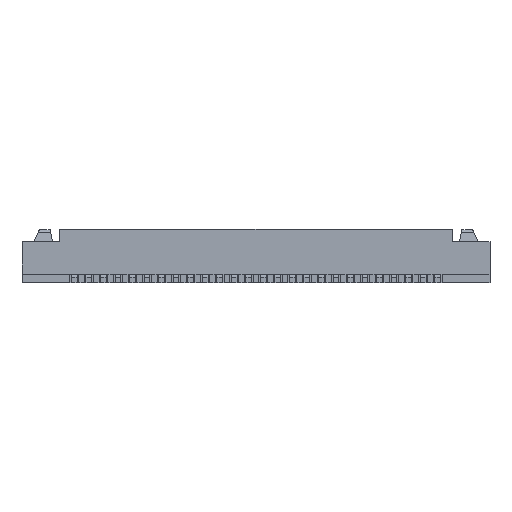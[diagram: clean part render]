
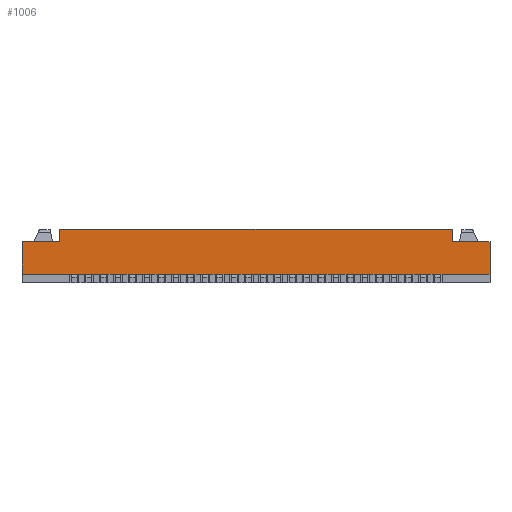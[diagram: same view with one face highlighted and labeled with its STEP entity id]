
A CAD part, front view. The second image highlights one B-rep face of the part: STEP entity #1006.
In plain terms, the highlighted planar face has unit normal (0, -1, 0).
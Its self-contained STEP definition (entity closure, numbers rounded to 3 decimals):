
#399=CARTESIAN_POINT('Vertex',(-6.75,-2.4,1.42)) ;
#402=CARTESIAN_POINT('Line Origine',(-6.75,-2.4,1.635)) ;
#406=CARTESIAN_POINT('Vertex',(-6.75,-2.4,1.85)) ;
#944=CARTESIAN_POINT('Axis2P3D Location',(0.,-2.4,0.3)) ;
#949=CARTESIAN_POINT('Line Origine',(-7.4,-2.4,1.42)) ;
#953=CARTESIAN_POINT('Vertex',(-8.05,-2.4,1.42)) ;
#956=CARTESIAN_POINT('Line Origine',(-8.05,-2.4,0.86)) ;
#960=CARTESIAN_POINT('Vertex',(-8.05,-2.4,0.3)) ;
#963=CARTESIAN_POINT('Line Origine',(0.,-2.4,0.3)) ;
#967=CARTESIAN_POINT('Vertex',(8.05,-2.4,0.3)) ;
#970=CARTESIAN_POINT('Line Origine',(8.05,-2.4,0.86)) ;
#974=CARTESIAN_POINT('Vertex',(8.05,-2.4,1.42)) ;
#977=CARTESIAN_POINT('Line Origine',(7.4,-2.4,1.42)) ;
#981=CARTESIAN_POINT('Vertex',(6.75,-2.4,1.42)) ;
#984=CARTESIAN_POINT('Line Origine',(6.75,-2.4,1.635)) ;
#988=CARTESIAN_POINT('Vertex',(6.75,-2.4,1.85)) ;
#991=CARTESIAN_POINT('Line Origine',(0.,-2.4,1.85)) ;
#403=DIRECTION('Vector Direction',(0.,0.,-1.)) ;
#945=DIRECTION('Axis2P3D Direction',(0.,1.,0.)) ;
#946=DIRECTION('Axis2P3D XDirection',(0.,0.,1.)) ;
#950=DIRECTION('Vector Direction',(1.,0.,0.)) ;
#957=DIRECTION('Vector Direction',(0.,0.,1.)) ;
#964=DIRECTION('Vector Direction',(1.,0.,0.)) ;
#971=DIRECTION('Vector Direction',(0.,0.,1.)) ;
#978=DIRECTION('Vector Direction',(-1.,0.,0.)) ;
#985=DIRECTION('Vector Direction',(0.,0.,-1.)) ;
#992=DIRECTION('Vector Direction',(1.,0.,0.)) ;
#947=AXIS2_PLACEMENT_3D('Plane Axis2P3D',#944,#945,#946) ;
#997=ORIENTED_EDGE('',*,*,#408,.T.) ;
#998=ORIENTED_EDGE('',*,*,#955,.F.) ;
#999=ORIENTED_EDGE('',*,*,#962,.T.) ;
#1000=ORIENTED_EDGE('',*,*,#969,.T.) ;
#1001=ORIENTED_EDGE('',*,*,#976,.F.) ;
#1002=ORIENTED_EDGE('',*,*,#983,.T.) ;
#1003=ORIENTED_EDGE('',*,*,#990,.F.) ;
#1004=ORIENTED_EDGE('',*,*,#995,.F.) ;
#404=VECTOR('Line Direction',#403,1.) ;
#951=VECTOR('Line Direction',#950,1.) ;
#958=VECTOR('Line Direction',#957,1.) ;
#965=VECTOR('Line Direction',#964,1.) ;
#972=VECTOR('Line Direction',#971,1.) ;
#979=VECTOR('Line Direction',#978,1.) ;
#986=VECTOR('Line Direction',#985,1.) ;
#993=VECTOR('Line Direction',#992,1.) ;
#1006=ADVANCED_FACE('\X2\96F64EF651E04F554F53\X0\',(#1005),#948,.F.) ;
#408=EDGE_CURVE('',#407,#400,#405,.T.) ;
#955=EDGE_CURVE('',#954,#400,#952,.T.) ;
#962=EDGE_CURVE('',#954,#961,#959,.F.) ;
#969=EDGE_CURVE('',#961,#968,#966,.T.) ;
#976=EDGE_CURVE('',#975,#968,#973,.F.) ;
#983=EDGE_CURVE('',#975,#982,#980,.T.) ;
#990=EDGE_CURVE('',#989,#982,#987,.T.) ;
#995=EDGE_CURVE('',#407,#989,#994,.T.) ;
#996=EDGE_LOOP('',(#997,#998,#999,#1000,#1001,#1002,#1003,#1004)) ;
#1005=FACE_OUTER_BOUND('',#996,.T.) ;
#405=LINE('Line',#402,#404) ;
#952=LINE('Line',#949,#951) ;
#959=LINE('Line',#956,#958) ;
#966=LINE('Line',#963,#965) ;
#973=LINE('Line',#970,#972) ;
#980=LINE('Line',#977,#979) ;
#987=LINE('Line',#984,#986) ;
#994=LINE('Line',#991,#993) ;
#948=PLANE('Plane',#947) ;
#400=VERTEX_POINT('',#399) ;
#407=VERTEX_POINT('',#406) ;
#954=VERTEX_POINT('',#953) ;
#961=VERTEX_POINT('',#960) ;
#968=VERTEX_POINT('',#967) ;
#975=VERTEX_POINT('',#974) ;
#982=VERTEX_POINT('',#981) ;
#989=VERTEX_POINT('',#988) ;
